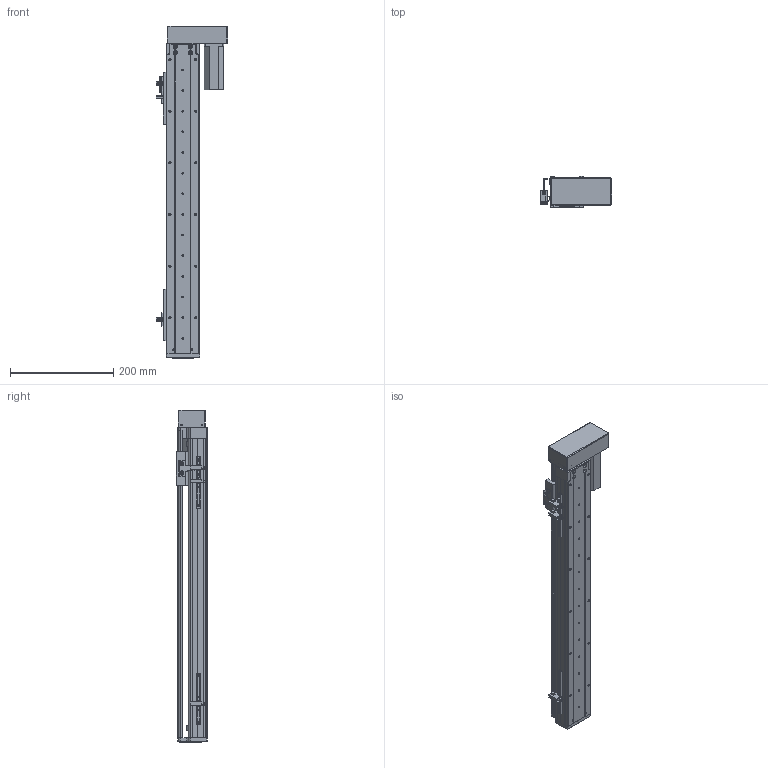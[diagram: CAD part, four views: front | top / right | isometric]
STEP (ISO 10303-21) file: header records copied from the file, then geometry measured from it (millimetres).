
FILE_DESCRIPTION (( 'STEP AP203' ), '1' );
FILE_NAME ('RY60-L1210-300-RK.SLDASM_450.step', '2021-02-20T06:52:36', ( '盈信电脑' ), ( '东莞市道滘镇水果街19号' ), 'SwSTEP 2.0', 'SolidWorks 2012', '' );
FILE_SCHEMA (( 'CONFIG_CONTROL_DESIGN' ));
Length unit declared in the file: millimetre
Products named in the file (13): RY80俋离覜茼え; 覜茼ん672; RY60-L1210-300-RK.SLDASM_450; 672嫖萇羲壽假蚾釱; 侂狟100W; RY60酘衵殏萇儂欶; RY60左右折电机安装板; RY60-300倰第裔啣-RK_450; RY60綴裔啣; RY60转折电机端支撑座; 滅袉蝶18-10; RY60-300倰第菁釱-RK_450; RY60臏賑輸
Assembly tree (18 placements, depth 2):
  RY60-L1210-300-RK.SLDASM_450
    RY60-300倰第菁釱-RK_450
    RY60臏賑輸
    RY60-300倰第裔啣-RK_450
    RY60綴裔啣
    滅袉蝶18-10  x4
    RY60转折电机端支撑座
    RY60左右折电机安装板
    侂狟100W
    RY60酘衵殏萇儂欶
    RY80俋离覜茼え
    672嫖萇羲壽假蚾釱  x2
    覜茼ん672  x3
Bounding box: 137.9 x 61 x 643 mm (x, y, z)
Volume: 869012.2 mm3; surface area: 436908.7 mm2
Topology: 18 solids, 18 shells, 1430 faces, 3992 edges, 2558 vertices
Faces by surface type: plane 713, cylinder 594, cone 106, bspline 17
Entity records: 42567 total; most frequent: CARTESIAN_POINT 10033, ORIENTED_EDGE 6556, DIRECTION 6366, EDGE_CURVE 3278, AXIS2_PLACEMENT_3D 2181, VERTEX_POINT 2138, VECTOR 2004, LINE 2004
